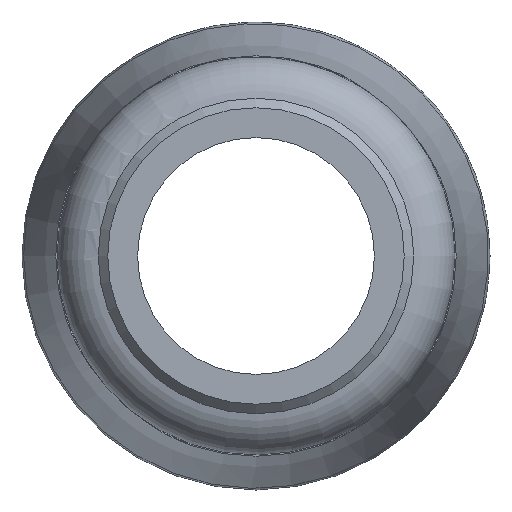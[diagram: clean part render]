
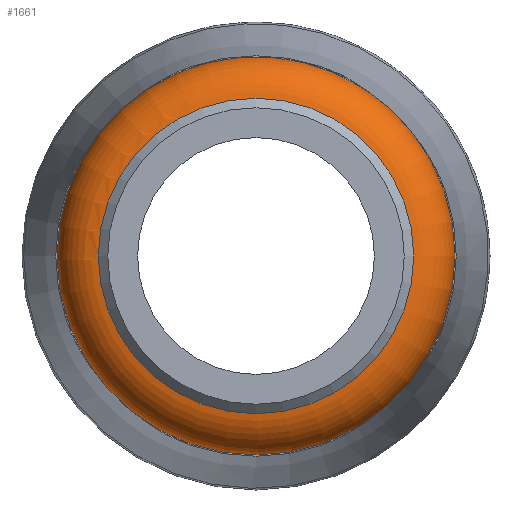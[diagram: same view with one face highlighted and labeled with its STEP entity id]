
A CAD part, left-side view. The second image highlights one B-rep face of the part: STEP entity #1661.
In plain terms, the highlighted toroidal (fillet/blend) face has major radius 27.625 mm and minor radius 8.5 mm.
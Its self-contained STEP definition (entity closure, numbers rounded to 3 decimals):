
#16=TOROIDAL_SURFACE('',#1816,27.625,8.5);
#352=FACE_BOUND('',#495,.T.);
#386=FACE_OUTER_BOUND('',#494,.T.);
#494=EDGE_LOOP('',(#1211));
#495=EDGE_LOOP('',(#1212));
#608=CIRCLE('',#1795,36.125);
#618=CIRCLE('',#1811,28.648);
#719=VERTEX_POINT('',#2826);
#726=VERTEX_POINT('',#2872);
#889=EDGE_CURVE('',#719,#719,#608,.T.);
#902=EDGE_CURVE('',#726,#726,#618,.T.);
#1211=ORIENTED_EDGE('',*,*,#902,.T.);
#1212=ORIENTED_EDGE('',*,*,#889,.T.);
#1661=ADVANCED_FACE('',(#386,#352),#16,.T.);
#1795=AXIS2_PLACEMENT_3D('',#2827,#2062,#2063);
#1811=AXIS2_PLACEMENT_3D('',#2873,#2095,#2096);
#1816=AXIS2_PLACEMENT_3D('',#2880,#2105,#2106);
#2062=DIRECTION('center_axis',(-1.,0.,0.));
#2063=DIRECTION('ref_axis',(0.,1.,0.));
#2095=DIRECTION('center_axis',(1.,0.,0.));
#2096=DIRECTION('ref_axis',(0.,0.,-1.));
#2105=DIRECTION('center_axis',(1.,0.,0.));
#2106=DIRECTION('ref_axis',(0.,1.,0.));
#2826=CARTESIAN_POINT('',(31.438,-36.125,0.));
#2827=CARTESIAN_POINT('Origin',(31.438,0.,0.));
#2872=CARTESIAN_POINT('',(23.,-28.648,0.));
#2873=CARTESIAN_POINT('Origin',(23.,0.,0.));
#2880=CARTESIAN_POINT('Origin',(31.438,0.,0.));
